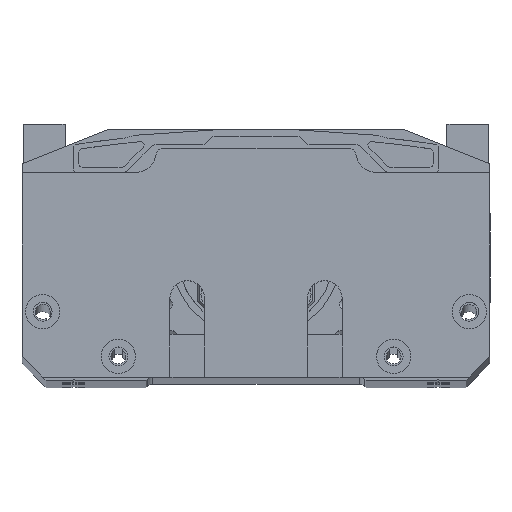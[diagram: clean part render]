
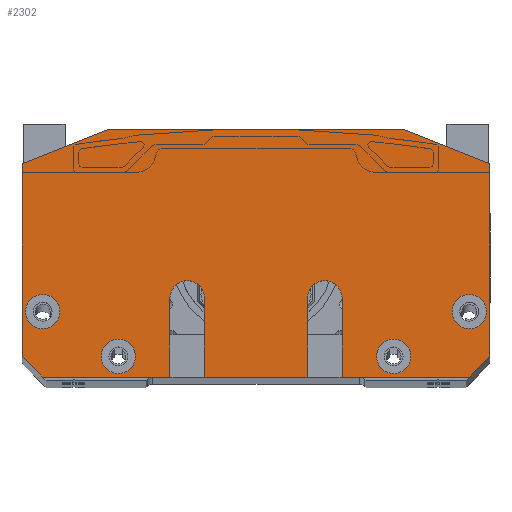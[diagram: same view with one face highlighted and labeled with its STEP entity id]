
A CAD part, top view. The second image highlights one B-rep face of the part: STEP entity #2302.
In plain terms, the highlighted planar face has unit normal (0, 0, 1).
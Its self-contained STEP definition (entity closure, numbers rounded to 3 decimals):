
#2302=ADVANCED_FACE('9',(#3391,#3392,#3393,#3394,#3395),#2971,.T.);
#2971=PLANE('',#19401);
#3391=FACE_BOUND('',#4419,.T.);
#3392=FACE_BOUND('',#4420,.T.);
#3393=FACE_BOUND('',#4421,.T.);
#3394=FACE_BOUND('',#4422,.T.);
#3395=FACE_BOUND('',#4423,.T.);
#4419=EDGE_LOOP('',(#8972,#8973,#8974,#8975,#8976,#8977,#8978,#8979,#8980,
#8981,#8982,#8983,#8984,#8985,#8986,#8987));
#4420=EDGE_LOOP('',(#8988));
#4421=EDGE_LOOP('',(#8989));
#4422=EDGE_LOOP('',(#8990));
#4423=EDGE_LOOP('',(#8991));
#5623=CIRCLE('',#19360,5.);
#5625=CIRCLE('',#19365,5.);
#5643=CIRCLE('',#19397,5.);
#5644=CIRCLE('',#19398,5.);
#5645=CIRCLE('',#19399,5.);
#5646=CIRCLE('',#19400,5.);
#8972=ORIENTED_EDGE('',*,*,#14738,.T.);
#8973=ORIENTED_EDGE('',*,*,#14740,.T.);
#8974=ORIENTED_EDGE('',*,*,#14734,.T.);
#8975=ORIENTED_EDGE('',*,*,#13840,.F.);
#8976=ORIENTED_EDGE('',*,*,#14746,.T.);
#8977=ORIENTED_EDGE('',*,*,#14748,.T.);
#8978=ORIENTED_EDGE('',*,*,#14742,.T.);
#8979=ORIENTED_EDGE('',*,*,#13837,.F.);
#8980=ORIENTED_EDGE('',*,*,#13854,.T.);
#8981=ORIENTED_EDGE('',*,*,#13868,.F.);
#8982=ORIENTED_EDGE('',*,*,#14757,.T.);
#8983=ORIENTED_EDGE('',*,*,#14779,.F.);
#8984=ORIENTED_EDGE('',*,*,#14760,.T.);
#8985=ORIENTED_EDGE('',*,*,#13793,.F.);
#8986=ORIENTED_EDGE('',*,*,#13825,.T.);
#8987=ORIENTED_EDGE('',*,*,#13843,.F.);
#8988=ORIENTED_EDGE('',*,*,#14780,.F.);
#8989=ORIENTED_EDGE('',*,*,#14781,.F.);
#8990=ORIENTED_EDGE('',*,*,#14782,.F.);
#8991=ORIENTED_EDGE('',*,*,#14783,.F.);
#11813=VERTEX_POINT('',#27888);
#11814=VERTEX_POINT('',#27890);
#11832=VERTEX_POINT('',#27948);
#11838=VERTEX_POINT('',#27969);
#11839=VERTEX_POINT('',#27971);
#11840=VERTEX_POINT('',#27974);
#11841=VERTEX_POINT('',#27976);
#11842=VERTEX_POINT('',#27979);
#11849=VERTEX_POINT('',#28000);
#11859=VERTEX_POINT('',#28026);
#12398=VERTEX_POINT('',#31595);
#12400=VERTEX_POINT('',#31601);
#12402=VERTEX_POINT('',#31610);
#12404=VERTEX_POINT('',#31616);
#12413=VERTEX_POINT('',#31641);
#12415=VERTEX_POINT('',#31647);
#12425=VERTEX_POINT('',#31687);
#12426=VERTEX_POINT('',#31689);
#12427=VERTEX_POINT('',#31691);
#12428=VERTEX_POINT('',#31693);
#13793=EDGE_CURVE('',#11813,#11814,#15970,.T.);
#13825=EDGE_CURVE('',#11813,#11832,#15992,.T.);
#13837=EDGE_CURVE('',#11838,#11839,#16003,.T.);
#13840=EDGE_CURVE('',#11840,#11841,#16006,.T.);
#13843=EDGE_CURVE('',#11842,#11832,#16009,.T.);
#13854=EDGE_CURVE('',#11838,#11849,#16019,.T.);
#13868=EDGE_CURVE('',#11859,#11849,#16031,.T.);
#14734=EDGE_CURVE('',#12398,#11841,#16458,.T.);
#14738=EDGE_CURVE('',#11842,#12400,#16462,.T.);
#14740=EDGE_CURVE('',#12400,#12398,#5623,.T.);
#14742=EDGE_CURVE('',#12402,#11839,#16464,.T.);
#14746=EDGE_CURVE('',#11840,#12404,#16468,.T.);
#14748=EDGE_CURVE('',#12404,#12402,#5625,.T.);
#14757=EDGE_CURVE('',#11859,#12413,#16473,.T.);
#14760=EDGE_CURVE('',#12415,#11814,#16476,.T.);
#14779=EDGE_CURVE('',#12415,#12413,#16482,.T.);
#14780=EDGE_CURVE('',#12425,#12425,#5643,.T.);
#14781=EDGE_CURVE('',#12426,#12426,#5644,.T.);
#14782=EDGE_CURVE('',#12427,#12427,#5645,.T.);
#14783=EDGE_CURVE('',#12428,#12428,#5646,.T.);
#15970=LINE('',#27889,#17294);
#15992=LINE('',#27949,#17316);
#16003=LINE('',#27970,#17327);
#16006=LINE('',#27975,#17330);
#16009=LINE('',#27980,#17333);
#16019=LINE('',#28001,#17343);
#16031=LINE('',#28027,#17355);
#16458=LINE('',#31594,#17782);
#16462=LINE('',#31602,#17786);
#16464=LINE('',#31609,#17788);
#16468=LINE('',#31617,#17792);
#16473=LINE('',#31640,#17797);
#16476=LINE('',#31646,#17800);
#16482=LINE('',#31685,#17806);
#17294=VECTOR('',#21372,1.);
#17316=VECTOR('',#21432,1.);
#17327=VECTOR('',#21451,1.);
#17330=VECTOR('',#21454,1.);
#17333=VECTOR('',#21457,1.);
#17343=VECTOR('',#21475,1.);
#17355=VECTOR('',#21495,1.);
#17782=VECTOR('',#23254,1.);
#17786=VECTOR('',#23260,1.);
#17788=VECTOR('',#23270,1.);
#17792=VECTOR('',#23276,1.);
#17797=VECTOR('',#23301,1.);
#17800=VECTOR('',#23306,1.);
#17806=VECTOR('',#23358,1.);
#19360=AXIS2_PLACEMENT_3D('',#31605,#23265,#23266);
#19365=AXIS2_PLACEMENT_3D('',#31620,#23281,#23282);
#19397=AXIS2_PLACEMENT_3D('',#31686,#23359,#23360);
#19398=AXIS2_PLACEMENT_3D('',#31688,#23361,#23362);
#19399=AXIS2_PLACEMENT_3D('',#31690,#23363,#23364);
#19400=AXIS2_PLACEMENT_3D('',#31692,#23365,#23366);
#19401=AXIS2_PLACEMENT_3D('',#31694,#23367,#23368);
#21372=DIRECTION('',(0.,1.,0.));
#21432=DIRECTION('',(0.707,-0.707,0.));
#21451=DIRECTION('',(-1.,0.,0.));
#21454=DIRECTION('',(-1.,0.,0.));
#21457=DIRECTION('',(-1.,0.,0.));
#21475=DIRECTION('',(0.707,0.707,0.));
#21495=DIRECTION('',(0.,-1.,0.));
#23254=DIRECTION('',(0.,-1.,0.));
#23260=DIRECTION('',(0.,1.,0.));
#23265=DIRECTION('',(0.,0.,-1.));
#23266=DIRECTION('',(1.,0.,0.));
#23270=DIRECTION('',(0.,-1.,0.));
#23276=DIRECTION('',(0.,1.,0.));
#23281=DIRECTION('',(0.,0.,-1.));
#23282=DIRECTION('',(-1.,0.,0.));
#23301=DIRECTION('',(-0.928,0.371,0.));
#23306=DIRECTION('',(-0.928,-0.371,0.));
#23358=DIRECTION('',(1.,0.,0.));
#23359=DIRECTION('',(0.,0.,1.));
#23360=DIRECTION('',(1.,0.,0.));
#23361=DIRECTION('',(0.,0.,1.));
#23362=DIRECTION('',(1.,0.,0.));
#23363=DIRECTION('',(0.,0.,1.));
#23364=DIRECTION('',(1.,0.,0.));
#23365=DIRECTION('',(0.,0.,1.));
#23366=DIRECTION('',(1.,0.,0.));
#23367=DIRECTION('',(0.,0.,1.));
#23368=DIRECTION('',(-1.,0.,0.));
#27888=CARTESIAN_POINT('',(-68.,6.,382.));
#27889=CARTESIAN_POINT('',(-68.,0.,382.));
#27890=CARTESIAN_POINT('',(-68.,62.,382.));
#27948=CARTESIAN_POINT('',(-62.,0.,382.));
#27949=CARTESIAN_POINT('',(-49.,-13.,382.));
#27969=CARTESIAN_POINT('',(62.,0.,382.));
#27970=CARTESIAN_POINT('',(68.,0.,382.));
#27971=CARTESIAN_POINT('',(25.,0.,382.));
#27974=CARTESIAN_POINT('',(15.,0.,382.));
#27975=CARTESIAN_POINT('',(68.,0.,382.));
#27976=CARTESIAN_POINT('',(-15.,0.,382.));
#27979=CARTESIAN_POINT('',(-25.,0.,382.));
#27980=CARTESIAN_POINT('',(68.,0.,382.));
#28000=CARTESIAN_POINT('',(68.,6.,382.));
#28001=CARTESIAN_POINT('',(49.,-13.,382.));
#28026=CARTESIAN_POINT('',(68.,62.,382.));
#28027=CARTESIAN_POINT('',(68.,0.,382.));
#31594=CARTESIAN_POINT('',(-15.,23.,382.));
#31595=CARTESIAN_POINT('',(-15.,23.,382.));
#31601=CARTESIAN_POINT('',(-25.,23.,382.));
#31602=CARTESIAN_POINT('',(-25.,23.,382.));
#31605=CARTESIAN_POINT('',(-20.,23.,382.));
#31609=CARTESIAN_POINT('',(25.,23.,382.));
#31610=CARTESIAN_POINT('',(25.,23.,382.));
#31616=CARTESIAN_POINT('',(15.,23.,382.));
#31617=CARTESIAN_POINT('',(15.,23.,382.));
#31620=CARTESIAN_POINT('',(20.,23.,382.));
#31640=CARTESIAN_POINT('',(18.345,81.862,382.));
#31641=CARTESIAN_POINT('',(43.,72.,382.));
#31646=CARTESIAN_POINT('',(-18.345,81.862,382.));
#31647=CARTESIAN_POINT('',(-43.,72.,382.));
#31685=CARTESIAN_POINT('',(68.,72.,382.));
#31686=CARTESIAN_POINT('',(-62.,19.,382.));
#31687=CARTESIAN_POINT('',(-57.,19.,382.));
#31688=CARTESIAN_POINT('',(62.,19.,382.));
#31689=CARTESIAN_POINT('',(67.,19.,382.));
#31690=CARTESIAN_POINT('',(-40.,6.,382.));
#31691=CARTESIAN_POINT('',(-35.,6.,382.));
#31692=CARTESIAN_POINT('',(40.,6.,382.));
#31693=CARTESIAN_POINT('',(45.,6.,382.));
#31694=CARTESIAN_POINT('',(0.,36.,382.));
